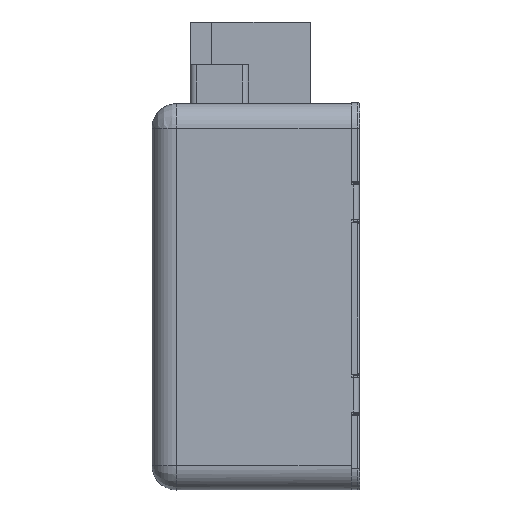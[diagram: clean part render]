
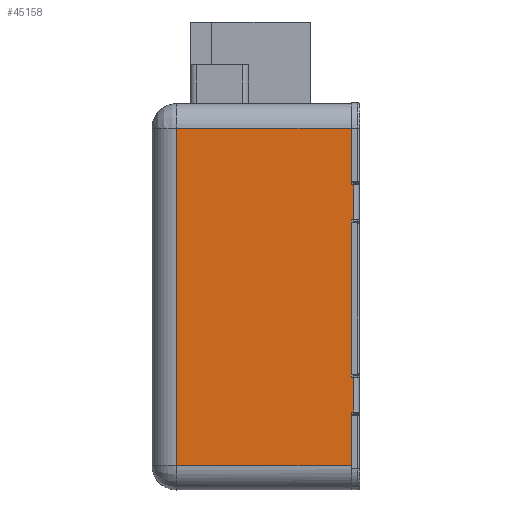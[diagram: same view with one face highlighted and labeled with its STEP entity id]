
A CAD part, left-side view. The second image highlights one B-rep face of the part: STEP entity #45158.
In plain terms, the highlighted planar face has unit normal (-1, 0, 0).
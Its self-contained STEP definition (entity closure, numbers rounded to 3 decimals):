
#45042=AXIS2_PLACEMENT_3D('Plane Axis2P3D',#45039,#45040,#45041) ;
#33611=CARTESIAN_POINT('Vertex',(-53.6,42.,39.)) ;
#33614=CARTESIAN_POINT('Line Origine',(-53.6,22.,39.)) ;
#33618=CARTESIAN_POINT('Vertex',(-53.6,2.,39.)) ;
#33646=CARTESIAN_POINT('Vertex',(-53.6,2.,26.5)) ;
#33717=CARTESIAN_POINT('Line Origine',(-53.6,2.,32.75)) ;
#45039=CARTESIAN_POINT('Axis2P3D Location',(-53.6,-6.,-43.25)) ;
#45044=CARTESIAN_POINT('Line Origine',(-53.6,2.,-17.75)) ;
#45048=CARTESIAN_POINT('Vertex',(-53.6,2.,-17.5)) ;
#45050=CARTESIAN_POINT('Vertex',(-53.6,2.,-18.)) ;
#45053=CARTESIAN_POINT('Line Origine',(-53.6,2.,0.)) ;
#45057=CARTESIAN_POINT('Vertex',(-53.6,2.,17.5)) ;
#45060=CARTESIAN_POINT('Line Origine',(-53.6,2.,17.75)) ;
#45064=CARTESIAN_POINT('Vertex',(-53.6,2.,18.)) ;
#45067=CARTESIAN_POINT('Line Origine',(-53.6,1.7,18.)) ;
#45071=CARTESIAN_POINT('Vertex',(-53.6,1.4,18.)) ;
#45074=CARTESIAN_POINT('Line Origine',(-53.6,1.4,22.)) ;
#45078=CARTESIAN_POINT('Vertex',(-53.6,1.4,26.)) ;
#45081=CARTESIAN_POINT('Line Origine',(-53.6,1.7,26.)) ;
#45085=CARTESIAN_POINT('Vertex',(-53.6,2.,26.)) ;
#45088=CARTESIAN_POINT('Line Origine',(-53.6,2.,26.25)) ;
#45093=CARTESIAN_POINT('Line Origine',(-53.6,42.,0.375)) ;
#45097=CARTESIAN_POINT('Vertex',(-53.6,42.,-38.25)) ;
#45100=CARTESIAN_POINT('Line Origine',(-53.6,22.,-38.25)) ;
#45104=CARTESIAN_POINT('Vertex',(-53.6,2.,-38.25)) ;
#45107=CARTESIAN_POINT('Line Origine',(-53.6,2.,-32.375)) ;
#45111=CARTESIAN_POINT('Vertex',(-53.6,2.,-26.5)) ;
#45114=CARTESIAN_POINT('Line Origine',(-53.6,2.,-26.25)) ;
#45118=CARTESIAN_POINT('Vertex',(-53.6,2.,-26.)) ;
#45121=CARTESIAN_POINT('Line Origine',(-53.6,1.7,-26.)) ;
#45125=CARTESIAN_POINT('Vertex',(-53.6,1.4,-26.)) ;
#45128=CARTESIAN_POINT('Line Origine',(-53.6,1.4,-22.)) ;
#45132=CARTESIAN_POINT('Vertex',(-53.6,1.4,-18.)) ;
#45135=CARTESIAN_POINT('Line Origine',(-53.6,1.7,-18.)) ;
#33615=DIRECTION('Vector Direction',(0.,1.,0.)) ;
#33718=DIRECTION('Vector Direction',(0.,0.,1.)) ;
#45040=DIRECTION('Axis2P3D Direction',(-1.,0.,0.)) ;
#45041=DIRECTION('Axis2P3D XDirection',(0.,1.,0.)) ;
#45045=DIRECTION('Vector Direction',(0.,0.,-1.)) ;
#45054=DIRECTION('Vector Direction',(0.,0.,-1.)) ;
#45061=DIRECTION('Vector Direction',(0.,0.,-1.)) ;
#45068=DIRECTION('Vector Direction',(0.,1.,0.)) ;
#45075=DIRECTION('Vector Direction',(0.,0.,-1.)) ;
#45082=DIRECTION('Vector Direction',(0.,-1.,0.)) ;
#45089=DIRECTION('Vector Direction',(0.,0.,-1.)) ;
#45094=DIRECTION('Vector Direction',(0.,0.,1.)) ;
#45101=DIRECTION('Vector Direction',(0.,1.,0.)) ;
#45108=DIRECTION('Vector Direction',(0.,0.,-1.)) ;
#45115=DIRECTION('Vector Direction',(0.,0.,-1.)) ;
#45122=DIRECTION('Vector Direction',(0.,1.,0.)) ;
#45129=DIRECTION('Vector Direction',(0.,0.,-1.)) ;
#45136=DIRECTION('Vector Direction',(0.,-1.,0.)) ;
#33616=VECTOR('Line Direction',#33615,1.) ;
#33719=VECTOR('Line Direction',#33718,1.) ;
#45046=VECTOR('Line Direction',#45045,1.) ;
#45055=VECTOR('Line Direction',#45054,1.) ;
#45062=VECTOR('Line Direction',#45061,1.) ;
#45069=VECTOR('Line Direction',#45068,1.) ;
#45076=VECTOR('Line Direction',#45075,1.) ;
#45083=VECTOR('Line Direction',#45082,1.) ;
#45090=VECTOR('Line Direction',#45089,1.) ;
#45095=VECTOR('Line Direction',#45094,1.) ;
#45102=VECTOR('Line Direction',#45101,1.) ;
#45109=VECTOR('Line Direction',#45108,1.) ;
#45116=VECTOR('Line Direction',#45115,1.) ;
#45123=VECTOR('Line Direction',#45122,1.) ;
#45130=VECTOR('Line Direction',#45129,1.) ;
#45137=VECTOR('Line Direction',#45136,1.) ;
#45141=ORIENTED_EDGE('',*,*,#45052,.F.) ;
#45142=ORIENTED_EDGE('',*,*,#45059,.F.) ;
#45143=ORIENTED_EDGE('',*,*,#45066,.F.) ;
#45144=ORIENTED_EDGE('',*,*,#45073,.F.) ;
#45145=ORIENTED_EDGE('',*,*,#45080,.F.) ;
#45146=ORIENTED_EDGE('',*,*,#45087,.F.) ;
#45147=ORIENTED_EDGE('',*,*,#45092,.F.) ;
#45148=ORIENTED_EDGE('',*,*,#33721,.T.) ;
#45149=ORIENTED_EDGE('',*,*,#33620,.T.) ;
#45150=ORIENTED_EDGE('',*,*,#45099,.F.) ;
#45151=ORIENTED_EDGE('',*,*,#45106,.F.) ;
#45152=ORIENTED_EDGE('',*,*,#45113,.F.) ;
#45153=ORIENTED_EDGE('',*,*,#45120,.F.) ;
#45154=ORIENTED_EDGE('',*,*,#45127,.F.) ;
#45155=ORIENTED_EDGE('',*,*,#45134,.F.) ;
#45156=ORIENTED_EDGE('',*,*,#45139,.F.) ;
#45158=ADVANCED_FACE('\X2\FF8AFF9FFF70FF82\X0\ \X2\FF8EFF9EFF83FF9EFF68FF70\X0\',(#45157),#45043,.T.) ;
#33620=EDGE_CURVE('',#33619,#33612,#33617,.T.) ;
#33721=EDGE_CURVE('',#33647,#33619,#33720,.T.) ;
#45052=EDGE_CURVE('',#45049,#45051,#45047,.T.) ;
#45059=EDGE_CURVE('',#45058,#45049,#45056,.T.) ;
#45066=EDGE_CURVE('',#45065,#45058,#45063,.T.) ;
#45073=EDGE_CURVE('',#45072,#45065,#45070,.T.) ;
#45080=EDGE_CURVE('',#45079,#45072,#45077,.T.) ;
#45087=EDGE_CURVE('',#45086,#45079,#45084,.T.) ;
#45092=EDGE_CURVE('',#33647,#45086,#45091,.T.) ;
#45099=EDGE_CURVE('',#45098,#33612,#45096,.T.) ;
#45106=EDGE_CURVE('',#45105,#45098,#45103,.T.) ;
#45113=EDGE_CURVE('',#45112,#45105,#45110,.T.) ;
#45120=EDGE_CURVE('',#45119,#45112,#45117,.T.) ;
#45127=EDGE_CURVE('',#45126,#45119,#45124,.T.) ;
#45134=EDGE_CURVE('',#45133,#45126,#45131,.T.) ;
#45139=EDGE_CURVE('',#45051,#45133,#45138,.T.) ;
#45140=EDGE_LOOP('',(#45141,#45142,#45143,#45144,#45145,#45146,#45147,#45148,#45149,#45150,#45151,#45152,#45153,#45154,#45155,#45156)) ;
#45157=FACE_OUTER_BOUND('',#45140,.T.) ;
#33617=LINE('Line',#33614,#33616) ;
#33720=LINE('Line',#33717,#33719) ;
#45047=LINE('Line',#45044,#45046) ;
#45056=LINE('Line',#45053,#45055) ;
#45063=LINE('Line',#45060,#45062) ;
#45070=LINE('Line',#45067,#45069) ;
#45077=LINE('Line',#45074,#45076) ;
#45084=LINE('Line',#45081,#45083) ;
#45091=LINE('Line',#45088,#45090) ;
#45096=LINE('Line',#45093,#45095) ;
#45103=LINE('Line',#45100,#45102) ;
#45110=LINE('Line',#45107,#45109) ;
#45117=LINE('Line',#45114,#45116) ;
#45124=LINE('Line',#45121,#45123) ;
#45131=LINE('Line',#45128,#45130) ;
#45138=LINE('Line',#45135,#45137) ;
#45043=PLANE('',#45042) ;
#33612=VERTEX_POINT('',#33611) ;
#33619=VERTEX_POINT('',#33618) ;
#33647=VERTEX_POINT('',#33646) ;
#45049=VERTEX_POINT('',#45048) ;
#45051=VERTEX_POINT('',#45050) ;
#45058=VERTEX_POINT('',#45057) ;
#45065=VERTEX_POINT('',#45064) ;
#45072=VERTEX_POINT('',#45071) ;
#45079=VERTEX_POINT('',#45078) ;
#45086=VERTEX_POINT('',#45085) ;
#45098=VERTEX_POINT('',#45097) ;
#45105=VERTEX_POINT('',#45104) ;
#45112=VERTEX_POINT('',#45111) ;
#45119=VERTEX_POINT('',#45118) ;
#45126=VERTEX_POINT('',#45125) ;
#45133=VERTEX_POINT('',#45132) ;
